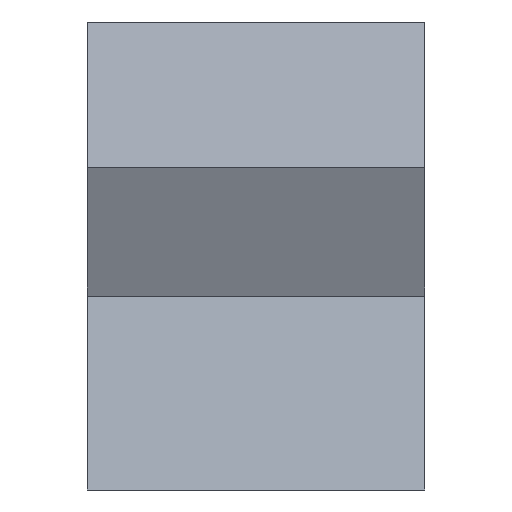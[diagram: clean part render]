
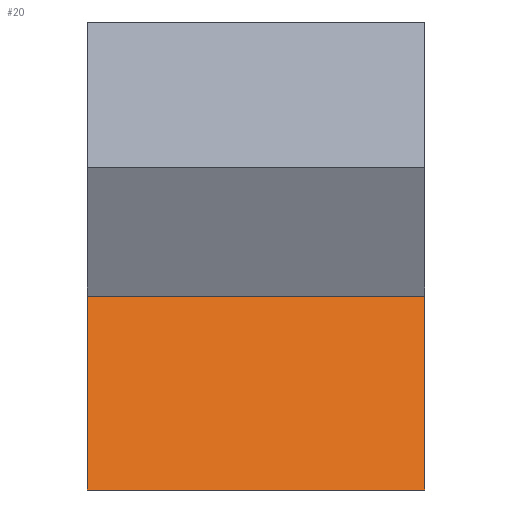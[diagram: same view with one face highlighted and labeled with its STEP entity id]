
A CAD part, front view. The second image highlights one B-rep face of the part: STEP entity #20.
In plain terms, the highlighted planar face has unit normal (0, -0.96, 0.281).
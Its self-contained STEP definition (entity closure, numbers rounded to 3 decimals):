
#20=ADVANCED_FACE('',(#28),#126,.T.);
#28=FACE_OUTER_BOUND('',#36,.T.);
#36=EDGE_LOOP('',(#63,#64,#65,#66));
#63=ORIENTED_EDGE('',*,*,#84,.F.);
#64=ORIENTED_EDGE('',*,*,#82,.F.);
#65=ORIENTED_EDGE('',*,*,#87,.F.);
#66=ORIENTED_EDGE('',*,*,#81,.F.);
#81=EDGE_CURVE('',#116,#117,#99,.T.);
#82=EDGE_CURVE('',#119,#120,#100,.T.);
#84=EDGE_CURVE('',#120,#116,#102,.T.);
#87=EDGE_CURVE('',#117,#119,#105,.T.);
#99=B_SPLINE_CURVE_WITH_KNOTS('',1,(#207,#208),.UNSPECIFIED.,.F.,.F.,(2,
2),(323.547,868.754),.UNSPECIFIED.);
#100=B_SPLINE_CURVE_WITH_KNOTS('',1,(#209,#210),.UNSPECIFIED.,.F.,.F.,(2,
2),(-868.754,-323.547),.UNSPECIFIED.);
#102=B_SPLINE_CURVE_WITH_KNOTS('',1,(#213,#214),.UNSPECIFIED.,.F.,.F.,(2,
2),(-800.,0.),.UNSPECIFIED.);
#105=B_SPLINE_CURVE_WITH_KNOTS('',1,(#219,#220),.UNSPECIFIED.,.F.,.F.,(2,
2),(-1920.941,-1120.941),.UNSPECIFIED.);
#116=VERTEX_POINT('',#188);
#117=VERTEX_POINT('',#189);
#119=VERTEX_POINT('',#191);
#120=VERTEX_POINT('',#192);
#126=PLANE('',#154);
#154=AXIS2_PLACEMENT_3D('',#180,#163,$);
#163=DIRECTION('',(0.,-0.96,0.281));
#180=CARTESIAN_POINT('',(466.668,-106.596,-127.857));
#188=CARTESIAN_POINT('',(72.278,-69.228,0.012));
#189=CARTESIAN_POINT('',(72.278,-6.26,215.484));
#191=CARTESIAN_POINT('',(447.278,-6.26,215.484));
#192=CARTESIAN_POINT('',(447.278,-69.228,0.012));
#207=CARTESIAN_POINT('',(72.278,-69.228,0.012));
#208=CARTESIAN_POINT('',(72.278,-6.26,215.484));
#209=CARTESIAN_POINT('',(447.278,-6.26,215.484));
#210=CARTESIAN_POINT('',(447.278,-69.228,0.012));
#213=CARTESIAN_POINT('',(447.278,-69.228,0.012));
#214=CARTESIAN_POINT('',(72.278,-69.228,0.012));
#219=CARTESIAN_POINT('',(72.278,-6.26,215.484));
#220=CARTESIAN_POINT('',(447.278,-6.26,215.484));
